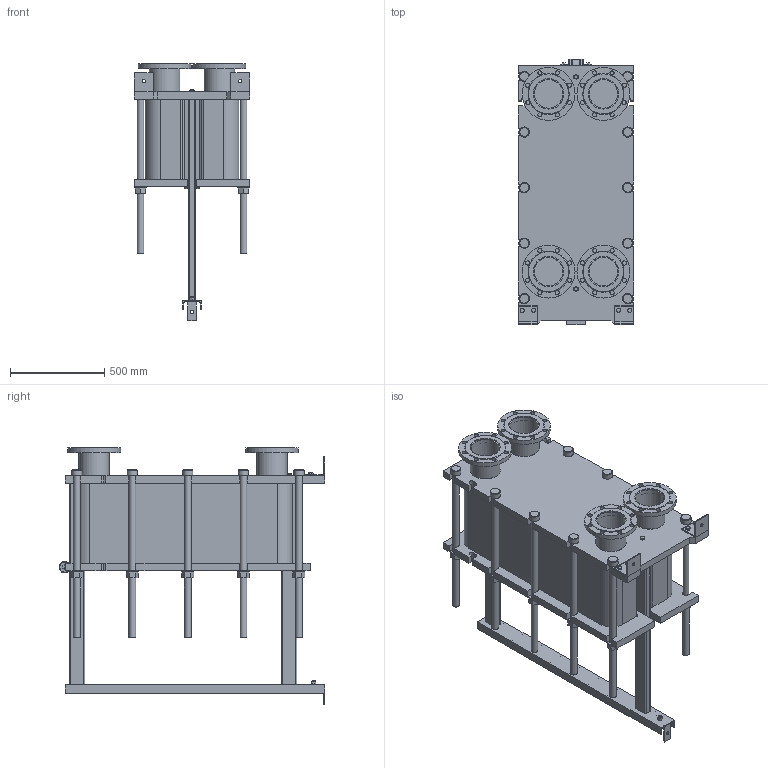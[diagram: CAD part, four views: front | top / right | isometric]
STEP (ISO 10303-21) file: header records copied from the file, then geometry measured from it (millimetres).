
FILE_DESCRIPTION(/* description */ (''),/* implementation_level */ '2;1');
FILE_NAME(/* name */ 'C:\Users\zhuro\Desktop\ENCO\TO\ЭН-041\ЭН-0,5-041-123-1.stp',/* time_stamp */ '2022-06-06T10:59:49+03:00',/* author */ ('zhuro'),/* organization */ (''),/* preprocessor_version */ 'ST-DEVELOPER v18.1',/* originating_system */ 'Autodesk Inventor 2022',/* authorisation */ '');
FILE_SCHEMA (('AUTOMOTIVE_DESIGN { 1 0 10303 214 3 1 1 }'));
Length unit declared in the file: millimetre
Products named in the file (1): ЭН-0,5-041-123-1
Bounding box: 610 x 1406.5 x 1362.5 mm (x, y, z)
Volume: 320759680 mm3; surface area: 9531642.3 mm2
Topology: 52 solids, 52 shells, 711 faces, 1696 edges, 1094 vertices
Faces by surface type: plane 487, cylinder 177, cone 41, torus 6
Full cylindrical faces by diameter (mm): 8 x4, 10 x2, 16 x8, 18 x3, 22 x32, 36 x24, 50 x1, 54 x10, 60 x12, 151 x4, 161 x8, 280 x4
Entity records: 22667 total; most frequent: CARTESIAN_POINT 5230, DIRECTION 3644, ORIENTED_EDGE 3392, EDGE_CURVE 1696, AXIS2_PLACEMENT_3D 1272, LINE 1100, VECTOR 1100, VERTEX_POINT 1094
